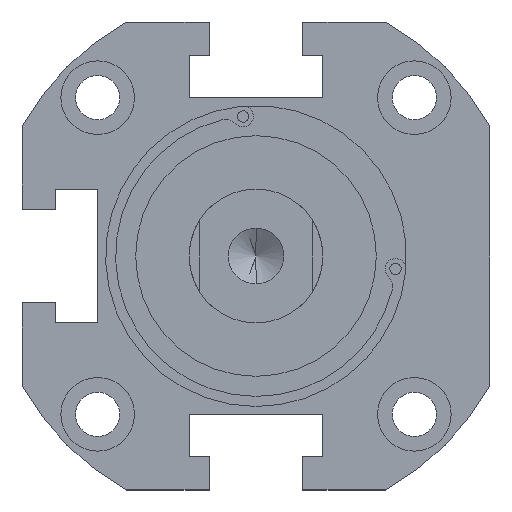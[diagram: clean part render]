
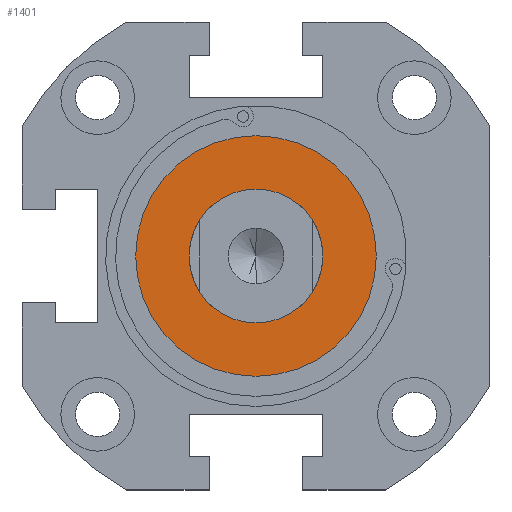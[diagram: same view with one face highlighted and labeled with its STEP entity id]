
A CAD part, front view. The second image highlights one B-rep face of the part: STEP entity #1401.
In plain terms, the highlighted planar face has unit normal (0, -1, 0) as drawn and (0, 1, 0) by its records, which use the part's own axes.
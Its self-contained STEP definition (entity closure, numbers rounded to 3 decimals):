
#38 = EDGE_CURVE ( 'NONE', #1686, #1967, #2996, .T. ) ;
#87 = DIRECTION ( 'NONE',  ( 0., 1., 0. ) ) ;
#125 = FACE_OUTER_BOUND ( 'NONE', #3615, .T. ) ;
#191 = DIRECTION ( 'NONE',  ( 0., 1., 0. ) ) ;
#255 = DIRECTION ( 'NONE',  ( 0., 0., 1. ) ) ;
#305 = CARTESIAN_POINT ( 'NONE',  ( 0., 0., 0. ) ) ;
#395 = EDGE_CURVE ( 'NONE', #1967, #1686, #2417, .T. ) ;
#509 = EDGE_LOOP ( 'NONE', ( #1818, #2542 ) ) ;
#639 = AXIS2_PLACEMENT_3D ( 'NONE', #305, #1708, #255 ) ;
#657 = EDGE_CURVE ( 'NONE', #1894, #2762, #680, .T. ) ;
#680 = CIRCLE ( 'NONE', #2250, 10. ) ;
#733 = AXIS2_PLACEMENT_3D ( 'NONE', #1985, #1996, #2269 ) ;
#1071 = PLANE ( 'NONE',  #1924 ) ;
#1313 = CARTESIAN_POINT ( 'NONE',  ( 0., 0., 0. ) ) ;
#1401 = ADVANCED_FACE ( 'NONE', ( #3185, #125 ), #1071, .T. ) ;
#1452 = CARTESIAN_POINT ( 'NONE',  ( 0., 0., 0. ) ) ;
#1541 = CARTESIAN_POINT ( 'NONE',  ( 0., 0., 10. ) ) ;
#1565 = AXIS2_PLACEMENT_3D ( 'NONE', #1886, #2453, #2751 ) ;
#1686 = VERTEX_POINT ( 'NONE', #2657 ) ;
#1708 = DIRECTION ( 'NONE',  ( 0., 1., 0. ) ) ;
#1818 = ORIENTED_EDGE ( 'NONE', *, *, #2990, .F. ) ;
#1847 = CARTESIAN_POINT ( 'NONE',  ( 0., 0., -10. ) ) ;
#1886 = CARTESIAN_POINT ( 'NONE',  ( 0., 0., 0. ) ) ;
#1894 = VERTEX_POINT ( 'NONE', #1541 ) ;
#1901 = DIRECTION ( 'NONE',  ( 0., 0., 1. ) ) ;
#1924 = AXIS2_PLACEMENT_3D ( 'NONE', #1313, #191, #1901 ) ;
#1967 = VERTEX_POINT ( 'NONE', #2678 ) ;
#1985 = CARTESIAN_POINT ( 'NONE',  ( 0., 0., 0. ) ) ;
#1996 = DIRECTION ( 'NONE',  ( 0., 1., 0. ) ) ;
#2250 = AXIS2_PLACEMENT_3D ( 'NONE', #1452, #87, #2593 ) ;
#2269 = DIRECTION ( 'NONE',  ( 0., 0., 1. ) ) ;
#2417 = CIRCLE ( 'NONE', #1565, 18. ) ;
#2453 = DIRECTION ( 'NONE',  ( 0., 1., 0. ) ) ;
#2542 = ORIENTED_EDGE ( 'NONE', *, *, #657, .F. ) ;
#2593 = DIRECTION ( 'NONE',  ( 0., 0., 1. ) ) ;
#2657 = CARTESIAN_POINT ( 'NONE',  ( 0., 0., 18. ) ) ;
#2678 = CARTESIAN_POINT ( 'NONE',  ( 0., 0., -18. ) ) ;
#2697 = CIRCLE ( 'NONE', #733, 10. ) ;
#2751 = DIRECTION ( 'NONE',  ( 0., 0., 1. ) ) ;
#2762 = VERTEX_POINT ( 'NONE', #1847 ) ;
#2990 = EDGE_CURVE ( 'NONE', #2762, #1894, #2697, .T. ) ;
#2996 = CIRCLE ( 'NONE', #639, 18. ) ;
#3185 = FACE_BOUND ( 'NONE', #509, .T. ) ;
#3332 = ORIENTED_EDGE ( 'NONE', *, *, #395, .T. ) ;
#3557 = ORIENTED_EDGE ( 'NONE', *, *, #38, .T. ) ;
#3615 = EDGE_LOOP ( 'NONE', ( #3557, #3332 ) ) ;
